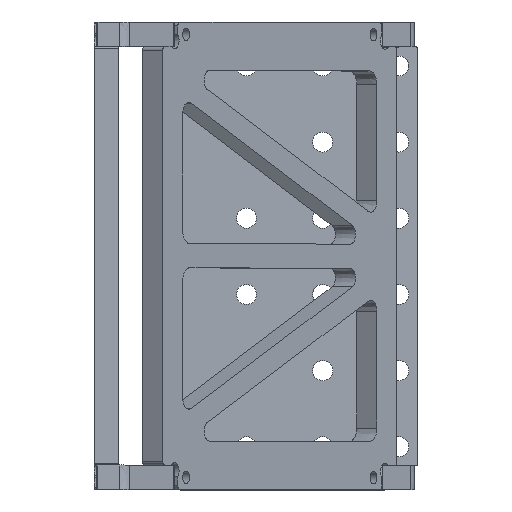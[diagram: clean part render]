
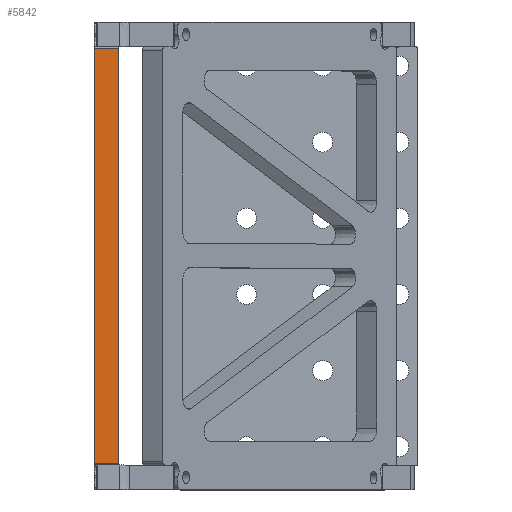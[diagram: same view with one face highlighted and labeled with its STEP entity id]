
A CAD part, top view. The second image highlights one B-rep face of the part: STEP entity #5842.
In plain terms, the highlighted planar face has unit normal (0, 0, 1).
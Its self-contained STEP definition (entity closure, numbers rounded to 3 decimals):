
#471=PLANE('',#6296);
#642=FACE_OUTER_BOUND('',#1036,.T.);
#1036=EDGE_LOOP('',(#4489,#4490,#4491,#4492));
#1393=LINE('',#8815,#1757);
#1424=LINE('',#9098,#1788);
#1435=LINE('',#9223,#1799);
#1440=LINE('',#9275,#1804);
#1757=VECTOR('',#6921,10.);
#1788=VECTOR('',#7100,10.);
#1799=VECTOR('',#7177,10.);
#1804=VECTOR('',#7228,10.);
#2483=VERTEX_POINT('',#8811);
#2485=VERTEX_POINT('',#8814);
#2543=VERTEX_POINT('',#9097);
#2588=VERTEX_POINT('',#9221);
#3123=EDGE_CURVE('',#2485,#2483,#1393,.T.);
#3215=EDGE_CURVE('',#2543,#2485,#1424,.T.);
#3265=EDGE_CURVE('',#2588,#2483,#1435,.T.);
#3291=EDGE_CURVE('',#2543,#2588,#1440,.T.);
#4489=ORIENTED_EDGE('',*,*,#3291,.F.);
#4490=ORIENTED_EDGE('',*,*,#3215,.T.);
#4491=ORIENTED_EDGE('',*,*,#3123,.T.);
#4492=ORIENTED_EDGE('',*,*,#3265,.F.);
#5842=ADVANCED_FACE('',(#642),#471,.T.);
#6296=AXIS2_PLACEMENT_3D('',#9370,#7246,#7247);
#6921=DIRECTION('',(1.,0.,0.));
#7100=DIRECTION('',(0.,-1.,0.));
#7177=DIRECTION('',(0.,-1.,0.));
#7228=DIRECTION('',(1.,0.,0.));
#7246=DIRECTION('center_axis',(0.,0.,1.));
#7247=DIRECTION('ref_axis',(-1.,0.,0.));
#8811=CARTESIAN_POINT('',(6.35,-109.5,125.));
#8814=CARTESIAN_POINT('',(0.,-109.5,125.));
#8815=CARTESIAN_POINT('',(4.763,-109.5,125.));
#9097=CARTESIAN_POINT('',(0.,-0.5,125.));
#9098=CARTESIAN_POINT('',(0.,0.,125.));
#9221=CARTESIAN_POINT('',(6.35,-0.5,125.));
#9223=CARTESIAN_POINT('',(6.35,0.,125.));
#9275=CARTESIAN_POINT('',(4.763,-0.5,125.));
#9370=CARTESIAN_POINT('Origin',(6.35,0.,125.));
